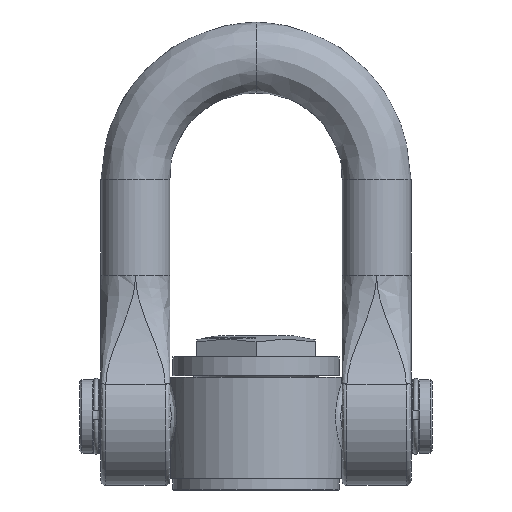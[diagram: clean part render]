
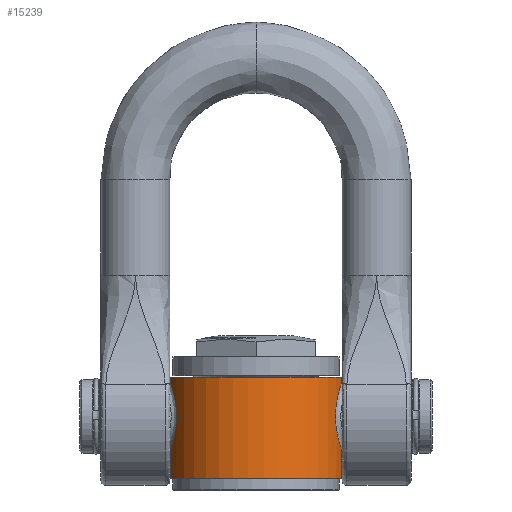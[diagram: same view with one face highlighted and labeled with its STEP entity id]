
A CAD part, left-side view. The second image highlights one B-rep face of the part: STEP entity #15239.
In plain terms, the highlighted cylindrical face has radius 37.5 mm (diameter 75 mm), a partial arc.
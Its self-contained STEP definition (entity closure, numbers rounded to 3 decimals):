
#1000=LINE('',#27604,#1809);
#1004=LINE('',#27970,#1813);
#1006=LINE('',#27974,#1815);
#1007=LINE('',#27976,#1816);
#1809=VECTOR('',#18373,10.);
#1813=VECTOR('',#18459,10.);
#1815=VECTOR('',#18465,10.);
#1816=VECTOR('',#18468,10.);
#2311=ELLIPSE('',#16281,17.07,15.009);
#2312=ELLIPSE('',#16282,17.07,15.009);
#2315=ELLIPSE('',#16285,17.07,15.009);
#2316=ELLIPSE('',#16286,17.07,15.009);
#2375=CYLINDRICAL_SURFACE('',#16306,37.5);
#2794=FACE_OUTER_BOUND('',#3712,.T.);
#3712=EDGE_LOOP('',(#11925,#11926,#11927,#11928,#11929,#11930,#11931,#11932,
#11933,#11934,#11935,#11936,#11937,#11938,#11939,#11940));
#4419=CIRCLE('',#16295,37.5);
#4423=CIRCLE('',#16301,37.5);
#5292=B_SPLINE_CURVE_WITH_KNOTS('',3,(#27431,#27432,#27433,#27434,#27435,
#27436,#27437,#27438),.UNSPECIFIED.,.F.,.F.,(4,2,2,4),(1.872,
1.928,1.992,1.994),.UNSPECIFIED.);
#5297=B_SPLINE_CURVE_WITH_KNOTS('',3,(#27498,#27499,#27500,#27501,#27502,
#27503,#27504,#27505),.UNSPECIFIED.,.F.,.F.,(4,2,2,4),(1.268,
1.288,1.331,1.348),.UNSPECIFIED.);
#5307=B_SPLINE_CURVE_WITH_KNOTS('',3,(#27593,#27594,#27595,#27596,#27597,
#27598),.UNSPECIFIED.,.F.,.F.,(4,2,4),(1.948,2.012,
2.057),.UNSPECIFIED.);
#5308=B_SPLINE_CURVE_WITH_KNOTS('',3,(#27608,#27609,#27610,#27611,#27612,
#27613,#27614,#27615),.UNSPECIFIED.,.F.,.F.,(4,2,2,4),(1.268,
1.288,1.331,1.348),.UNSPECIFIED.);
#5318=B_SPLINE_CURVE_WITH_KNOTS('',3,(#27761,#27762,#27763,#27764,#27765,
#27766,#27767,#27768,#27769),.UNSPECIFIED.,.F.,.F.,(4,1,1,1,1,1,4),(-13.112,
-12.433,-12.192,-11.709,-11.226,
-10.743,-9.823),.UNSPECIFIED.);
#5320=B_SPLINE_CURVE_WITH_KNOTS('',3,(#27877,#27878,#27879,#27880,#27881,
#27882,#27883,#27884,#27885),.UNSPECIFIED.,.F.,.F.,(4,1,1,1,1,1,4),(-13.112,
-12.433,-12.192,-11.709,-11.226,
-10.743,-9.823),.UNSPECIFIED.);
#6409=VERTEX_POINT('',#27374);
#6415=VERTEX_POINT('',#27429);
#6423=VERTEX_POINT('',#27484);
#6424=VERTEX_POINT('',#27497);
#6433=VERTEX_POINT('',#27556);
#6436=VERTEX_POINT('',#27591);
#6438=VERTEX_POINT('',#27602);
#6439=VERTEX_POINT('',#27606);
#6440=VERTEX_POINT('',#27607);
#6456=VERTEX_POINT('',#27758);
#6457=VERTEX_POINT('',#27760);
#6460=VERTEX_POINT('',#27874);
#6461=VERTEX_POINT('',#27876);
#6467=VERTEX_POINT('',#27954);
#6468=VERTEX_POINT('',#27956);
#6471=VERTEX_POINT('',#27966);
#8365=EDGE_CURVE('',#6415,#6409,#5292,.T.);
#8374=EDGE_CURVE('',#6424,#6423,#5297,.F.);
#8390=EDGE_CURVE('',#6436,#6433,#5307,.T.);
#8393=EDGE_CURVE('',#6436,#6438,#1000,.T.);
#8394=EDGE_CURVE('',#6439,#6440,#5308,.F.);
#8413=EDGE_CURVE('',#6433,#6456,#2311,.F.);
#8414=EDGE_CURVE('',#6456,#6457,#5318,.T.);
#8415=EDGE_CURVE('',#6423,#6457,#2312,.T.);
#8419=EDGE_CURVE('',#6409,#6460,#2315,.F.);
#8420=EDGE_CURVE('',#6460,#6461,#5320,.T.);
#8421=EDGE_CURVE('',#6440,#6461,#2316,.T.);
#8429=EDGE_CURVE('',#6467,#6468,#4419,.T.);
#8435=EDGE_CURVE('',#6471,#6438,#4423,.T.);
#8436=EDGE_CURVE('',#6467,#6424,#1004,.T.);
#8438=EDGE_CURVE('',#6471,#6439,#1006,.T.);
#8439=EDGE_CURVE('',#6415,#6468,#1007,.T.);
#11925=ORIENTED_EDGE('',*,*,#8414,.F.);
#11926=ORIENTED_EDGE('',*,*,#8413,.F.);
#11927=ORIENTED_EDGE('',*,*,#8390,.F.);
#11928=ORIENTED_EDGE('',*,*,#8393,.T.);
#11929=ORIENTED_EDGE('',*,*,#8435,.F.);
#11930=ORIENTED_EDGE('',*,*,#8438,.T.);
#11931=ORIENTED_EDGE('',*,*,#8394,.T.);
#11932=ORIENTED_EDGE('',*,*,#8421,.T.);
#11933=ORIENTED_EDGE('',*,*,#8420,.F.);
#11934=ORIENTED_EDGE('',*,*,#8419,.F.);
#11935=ORIENTED_EDGE('',*,*,#8365,.F.);
#11936=ORIENTED_EDGE('',*,*,#8439,.T.);
#11937=ORIENTED_EDGE('',*,*,#8429,.F.);
#11938=ORIENTED_EDGE('',*,*,#8436,.T.);
#11939=ORIENTED_EDGE('',*,*,#8374,.T.);
#11940=ORIENTED_EDGE('',*,*,#8415,.T.);
#15239=ADVANCED_FACE('',(#2794),#2375,.T.);
#16281=AXIS2_PLACEMENT_3D('',#27759,#18412,#18413);
#16282=AXIS2_PLACEMENT_3D('',#27770,#18414,#18415);
#16285=AXIS2_PLACEMENT_3D('',#27875,#18420,#18421);
#16286=AXIS2_PLACEMENT_3D('',#27886,#18422,#18423);
#16295=AXIS2_PLACEMENT_3D('',#27957,#18441,#18442);
#16301=AXIS2_PLACEMENT_3D('',#27968,#18455,#18456);
#16306=AXIS2_PLACEMENT_3D('',#27977,#18469,#18470);
#18373=DIRECTION('',(0.,0.,-1.));
#18412=DIRECTION('center_axis',(0.093,-0.97,-0.224));
#18413=DIRECTION('ref_axis',(0.374,0.243,-0.895));
#18414=DIRECTION('center_axis',(0.093,-0.97,0.224));
#18415=DIRECTION('ref_axis',(-0.374,-0.243,-0.895));
#18420=DIRECTION('center_axis',(0.093,0.97,0.224));
#18421=DIRECTION('ref_axis',(0.374,-0.243,0.895));
#18422=DIRECTION('center_axis',(0.093,0.97,-0.224));
#18423=DIRECTION('ref_axis',(-0.374,0.243,0.895));
#18441=DIRECTION('center_axis',(0.,0.,1.));
#18442=DIRECTION('ref_axis',(-1.,0.,0.));
#18455=DIRECTION('center_axis',(0.,0.,-1.));
#18456=DIRECTION('ref_axis',(-1.,0.,0.));
#18459=DIRECTION('',(0.,0.,-1.));
#18465=DIRECTION('',(0.,0.,1.));
#18468=DIRECTION('',(0.,0.,1.));
#18469=DIRECTION('center_axis',(0.,0.,1.));
#18470=DIRECTION('ref_axis',(-1.,0.,0.));
#27374=CARTESIAN_POINT('',(-10.379,-36.035,40.193));
#27429=CARTESIAN_POINT('',(-10.5,-36.,40.62));
#27431=CARTESIAN_POINT('Ctrl Pts',(-10.5,-36.,40.62));
#27432=CARTESIAN_POINT('Ctrl Pts',(-10.5,-36.,40.549));
#27433=CARTESIAN_POINT('Ctrl Pts',(-10.493,-36.002,
40.479));
#27434=CARTESIAN_POINT('Ctrl Pts',(-10.458,-36.012,
40.333));
#27435=CARTESIAN_POINT('Ctrl Pts',(-10.428,-36.021,40.261));
#27436=CARTESIAN_POINT('Ctrl Pts',(-10.381,-36.034,
40.195));
#27437=CARTESIAN_POINT('Ctrl Pts',(-10.38,-36.035,
40.194));
#27438=CARTESIAN_POINT('Ctrl Pts',(-10.379,-36.035,
40.193));
#27484=CARTESIAN_POINT('',(-10.379,36.035,40.193));
#27497=CARTESIAN_POINT('',(-10.5,36.,40.62));
#27498=CARTESIAN_POINT('Ctrl Pts',(-10.379,36.035,40.193));
#27499=CARTESIAN_POINT('Ctrl Pts',(-10.401,36.029,40.223));
#27500=CARTESIAN_POINT('Ctrl Pts',(-10.42,36.023,40.255));
#27501=CARTESIAN_POINT('Ctrl Pts',(-10.469,36.009,40.363));
#27502=CARTESIAN_POINT('Ctrl Pts',(-10.488,36.004,40.443));
#27503=CARTESIAN_POINT('Ctrl Pts',(-10.499,36.,40.556));
#27504=CARTESIAN_POINT('Ctrl Pts',(-10.5,36.,40.588));
#27505=CARTESIAN_POINT('Ctrl Pts',(-10.5,36.,40.62));
#27556=CARTESIAN_POINT('',(-10.379,36.035,11.807));
#27591=CARTESIAN_POINT('',(-10.5,36.,11.38));
#27593=CARTESIAN_POINT('Ctrl Pts',(-10.5,36.,11.38));
#27594=CARTESIAN_POINT('Ctrl Pts',(-10.5,36.,11.469));
#27595=CARTESIAN_POINT('Ctrl Pts',(-10.489,36.003,11.558));
#27596=CARTESIAN_POINT('Ctrl Pts',(-10.443,36.017,11.702));
#27597=CARTESIAN_POINT('Ctrl Pts',(-10.415,36.025,11.757));
#27598=CARTESIAN_POINT('Ctrl Pts',(-10.379,36.035,11.807));
#27602=CARTESIAN_POINT('',(-10.5,36.,0.));
#27604=CARTESIAN_POINT('',(-10.5,36.,0.));
#27606=CARTESIAN_POINT('',(-10.5,-36.,11.38));
#27607=CARTESIAN_POINT('',(-10.379,-36.035,11.807));
#27608=CARTESIAN_POINT('Ctrl Pts',(-10.379,-36.035,
11.807));
#27609=CARTESIAN_POINT('Ctrl Pts',(-10.401,-36.029,
11.777));
#27610=CARTESIAN_POINT('Ctrl Pts',(-10.42,-36.023,11.745));
#27611=CARTESIAN_POINT('Ctrl Pts',(-10.469,-36.009,
11.637));
#27612=CARTESIAN_POINT('Ctrl Pts',(-10.488,-36.004,
11.557));
#27613=CARTESIAN_POINT('Ctrl Pts',(-10.499,-36.,
11.444));
#27614=CARTESIAN_POINT('Ctrl Pts',(-10.5,-36.,11.412));
#27615=CARTESIAN_POINT('Ctrl Pts',(-10.5,-36.,11.38));
#27758=CARTESIAN_POINT('',(-10.5,36.,11.909));
#27759=CARTESIAN_POINT('Origin',(-1.565,33.962,24.447));
#27760=CARTESIAN_POINT('',(-10.5,36.,40.091));
#27761=CARTESIAN_POINT('Ctrl Pts',(-10.5,36.,11.909));
#27762=CARTESIAN_POINT('Ctrl Pts',(-12.119,35.527,13.282));
#27763=CARTESIAN_POINT('Ctrl Pts',(-13.982,34.822,15.566));
#27764=CARTESIAN_POINT('Ctrl Pts',(-15.92,33.964,19.672));
#27765=CARTESIAN_POINT('Ctrl Pts',(-16.924,33.465,23.558));
#27766=CARTESIAN_POINT('Ctrl Pts',(-16.925,33.463,28.443));
#27767=CARTESIAN_POINT('Ctrl Pts',(-15.354,34.246,34.515));
#27768=CARTESIAN_POINT('Ctrl Pts',(-12.695,35.359,38.229));
#27769=CARTESIAN_POINT('Ctrl Pts',(-10.5,36.,40.091));
#27770=CARTESIAN_POINT('Origin',(-1.564,33.962,27.553));
#27874=CARTESIAN_POINT('',(-10.5,-36.,40.091));
#27875=CARTESIAN_POINT('Origin',(-1.565,-33.962,27.553));
#27876=CARTESIAN_POINT('',(-10.5,-36.,11.909));
#27877=CARTESIAN_POINT('Ctrl Pts',(-10.5,-36.,
40.091));
#27878=CARTESIAN_POINT('Ctrl Pts',(-12.119,-35.527,
38.718));
#27879=CARTESIAN_POINT('Ctrl Pts',(-13.982,-34.822,
36.434));
#27880=CARTESIAN_POINT('Ctrl Pts',(-15.92,-33.964,
32.328));
#27881=CARTESIAN_POINT('Ctrl Pts',(-16.924,-33.465,
28.442));
#27882=CARTESIAN_POINT('Ctrl Pts',(-16.925,-33.463,23.557));
#27883=CARTESIAN_POINT('Ctrl Pts',(-15.354,-34.246,
17.485));
#27884=CARTESIAN_POINT('Ctrl Pts',(-12.695,-35.359,
13.771));
#27885=CARTESIAN_POINT('Ctrl Pts',(-10.5,-36.,
11.909));
#27886=CARTESIAN_POINT('Origin',(-1.565,-33.962,24.447));
#27954=CARTESIAN_POINT('',(-10.5,36.,42.5));
#27956=CARTESIAN_POINT('',(-10.5,-36.,42.5));
#27957=CARTESIAN_POINT('Origin',(0.,0.,42.5));
#27966=CARTESIAN_POINT('',(-10.5,-36.,0.));
#27968=CARTESIAN_POINT('Origin',(0.,0.,0.));
#27970=CARTESIAN_POINT('',(-10.5,36.,0.));
#27974=CARTESIAN_POINT('',(-10.5,-36.,0.));
#27976=CARTESIAN_POINT('',(-10.5,-36.,0.));
#27977=CARTESIAN_POINT('Origin',(0.,0.,0.));
